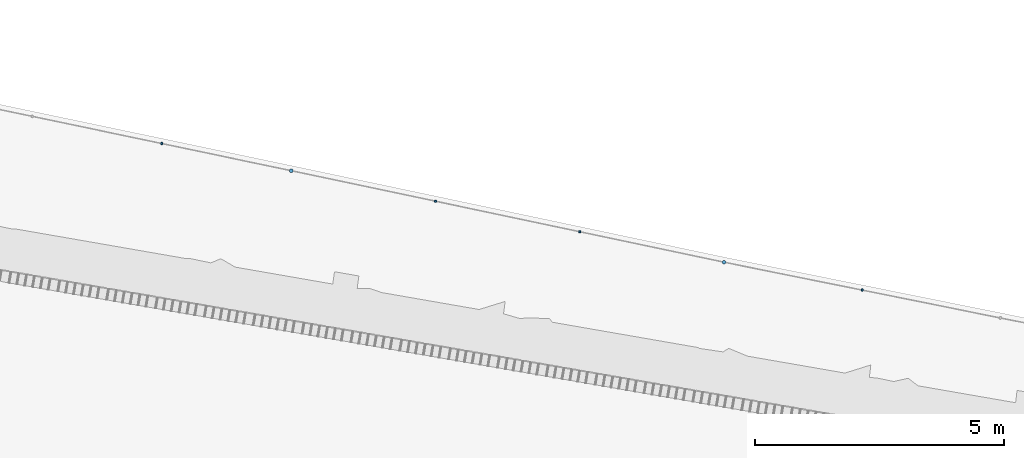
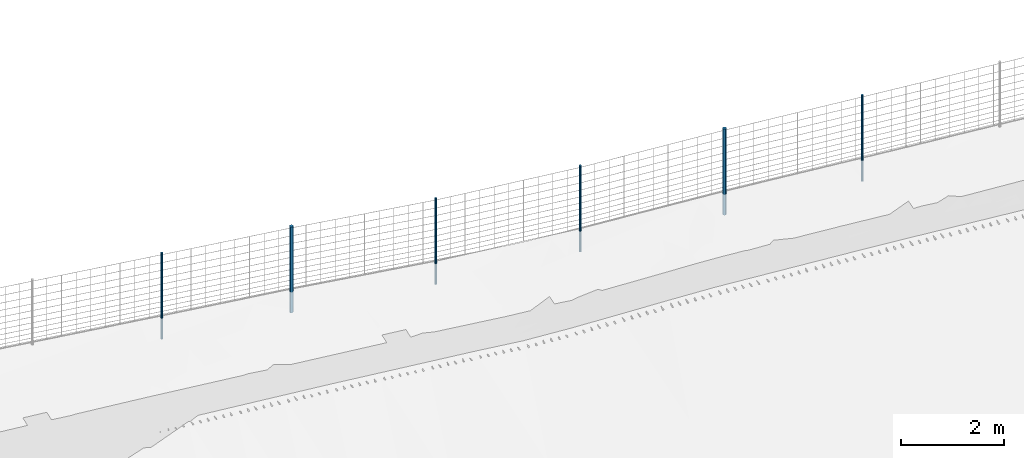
# Not in any storey, part 13 of 72: 6 members.
"""IFC4 model written with IfcOpenShell, lengths in metres."""

from ifc_helpers import new_model, si_unit, direction, frame, origin_with_axes, place, context, subcontext, project, spatial, circle, extrude, material, material_profile, profile_set, profile_usage, type_object, element, save


model = new_model("IFC4")

# Units and contexts
model_context = context("Model", 3, precision=1e-05, world=origin_with_axes(), true_north=direction((0.0, 1.0)))
body_context = subcontext(model_context, "Body", "Model", "MODEL_VIEW")
ifc_project = project(units=[si_unit("VOLUMEUNIT", "CUBIC_METRE"), si_unit("LENGTHUNIT", "METRE"), si_unit("AREAUNIT", "SQUARE_METRE")], contexts=[model_context])

# Site
site_placement = place(None, origin_with_axes())
site = spatial("IfcSite", under=ifc_project, at=site_placement, Name="Lares · Rua das Mercês · artigo 4771")

# Members
ifc_material = material(Name="Aço galvanizado / Stahl verzinkt", Category="steel")
ifc_material_profile_1 = material_profile(ifc_material, circle(Radius=0.038))
ifc_profile_set_1 = profile_set([ifc_material_profile_1], Name="D0.076")
ifc_profile_usage_1 = profile_usage(ifc_profile_set_1)
member_type_1 = type_object("IfcMemberType", Name="D0.076 / galvanized", PredefinedType="NOTDEFINED", material=ifc_profile_set_1)
member_1_placement = place(site_placement, frame((56.5074854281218, 13.2082478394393, 14.8120506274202), z_axis=(0.0, 0.0, 1.0), x_axis=(1.0, -1.03767253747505e-17, 0.0)))
element("IfcMember", 1, at=member_1_placement, inside=site, type_object=member_type_1, material=ifc_profile_usage_1, Name="Vedação · poste de canto/topo", PredefinedType="POST", context=body_context, shape_type="SweptSolid", body=[
    extrude(circle(Radius=0.038), origin_with_axes(), (0.0, 0.0, 1.0), 2.05),
])
ifc_profile_usage_2 = profile_usage(ifc_profile_set_1)
member_2_placement = place(site_placement, frame((65.1978690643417, 11.3704667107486, 15.2109887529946), z_axis=(0.0, 0.0, 1.0), x_axis=(1.0, -1.03767253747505e-17, 0.0)))
element("IfcMember", 2, at=member_2_placement, inside=site, type_object=member_type_1, material=ifc_profile_usage_2, Name="Vedação · poste de canto/topo", PredefinedType="POST", context=body_context, shape_type="SweptSolid", body=[
    extrude(circle(Radius=0.038), origin_with_axes(), (0.0, 0.0, 1.0), 2.05),
])
ifc_material_profile_2 = material_profile(ifc_material, circle(Radius=0.024))
ifc_profile_set_2 = profile_set([ifc_material_profile_2], Name="D0.048")
ifc_profile_usage_3 = profile_usage(ifc_profile_set_2)
member_type_2 = type_object("IfcMemberType", Name="D0.048 / galvanized", PredefinedType="NOTDEFINED", material=ifc_profile_set_2)
member_3_placement = place(site_placement, frame((53.9073642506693, 13.7539312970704, 14.7543091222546), z_axis=(0.0, 0.0, 1.0), x_axis=(1.0, -1.03767253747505e-17, 0.0)))
element("IfcMember", 3, at=member_3_placement, inside=site, type_object=member_type_2, material=ifc_profile_usage_3, Name="Vedação · poste intermédio", PredefinedType="POST", context=body_context, shape_type="SweptSolid", body=[
    extrude(circle(Radius=0.024), origin_with_axes(), (0.0, 0.0, 1.0), 2.05),
])
ifc_profile_usage_4 = profile_usage(ifc_profile_set_2)
member_4_placement = place(site_placement, frame((59.4042799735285, 12.5956541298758, 14.8328746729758), z_axis=(0.0, 0.0, 1.0), x_axis=(1.0, -1.03767253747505e-17, 0.0)))
element("IfcMember", 4, at=member_4_placement, inside=site, type_object=member_type_2, material=ifc_profile_usage_4, Name="Vedação · poste intermédio", PredefinedType="POST", context=body_context, shape_type="SweptSolid", body=[
    extrude(circle(Radius=0.024), origin_with_axes(), (0.0, 0.0, 1.0), 2.05),
])
ifc_profile_usage_5 = profile_usage(ifc_profile_set_2)
member_5_placement = place(site_placement, frame((62.3010745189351, 11.9830604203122, 14.9664278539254), z_axis=(0.0, 0.0, 1.0), x_axis=(1.0, -1.03767253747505e-17, 0.0)))
element("IfcMember", 5, at=member_5_placement, inside=site, type_object=member_type_2, material=ifc_profile_usage_5, Name="Vedação · poste intermédio", PredefinedType="POST", context=body_context, shape_type="SweptSolid", body=[
    extrude(circle(Radius=0.024), origin_with_axes(), (0.0, 0.0, 1.0), 2.05),
])
ifc_profile_usage_6 = profile_usage(ifc_profile_set_2)
member_6_placement = place(site_placement, frame((67.9723538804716, 10.8108697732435, 15.3683816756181), z_axis=(0.0, 0.0, 1.0), x_axis=(1.0, -1.03767253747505e-17, 0.0)))
element("IfcMember", 6, at=member_6_placement, inside=site, type_object=member_type_2, material=ifc_profile_usage_6, Name="Vedação · poste intermédio", PredefinedType="POST", context=body_context, shape_type="SweptSolid", body=[
    extrude(circle(Radius=0.024), origin_with_axes(), (0.0, 0.0, 1.0), 2.05),
])

save(model, "model.ifc")
